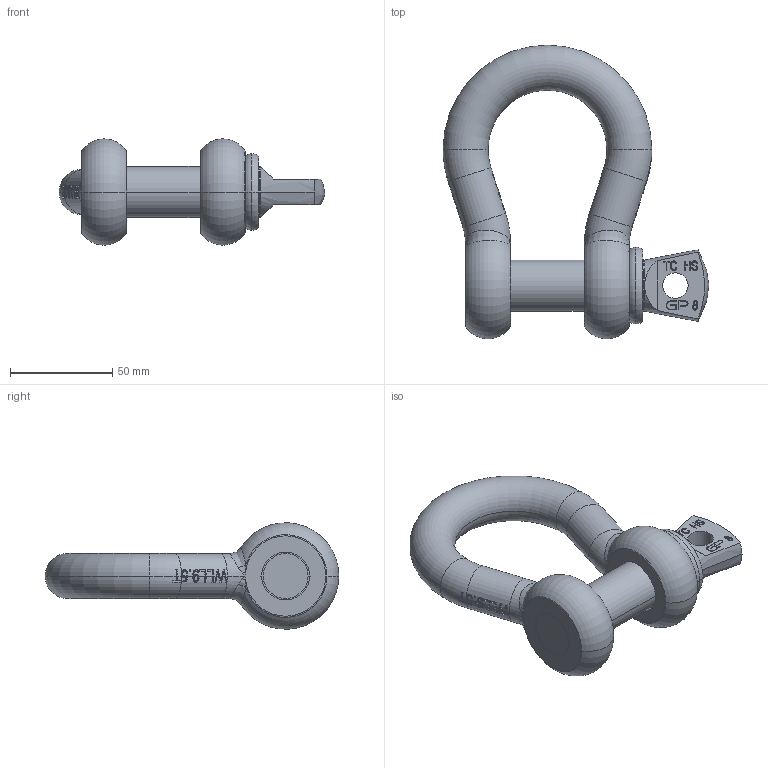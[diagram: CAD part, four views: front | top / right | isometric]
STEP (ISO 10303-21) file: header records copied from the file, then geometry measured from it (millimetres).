
FILE_DESCRIPTION(('STEP AP203'),'1');
FILE_NAME('sughbb22.stp','2022-09-26T10:05:15',('TraceParts'),('TraceParts S.A.'),'Spatial InterOp 3D',' ',' ');
FILE_SCHEMA(('CONFIG_CONTROL_DESIGN'));
Length unit declared in the file: millimetre
Products named in the file (1): 1
Bounding box: 129.89 x 143.5 x 51.95 mm (x, y, z)
Volume: 197896.5 mm3; surface area: 40640.5 mm2
Topology: 2 solids, 2 shells, 417 faces, 1136 edges, 726 vertices
Faces by surface type: plane 175, bspline 133, cylinder 69, torus 30, cone 10
Entity records: 20595 total; most frequent: CARTESIAN_POINT 11076, ORIENTED_EDGE 2240, DIRECTION 1559, EDGE_CURVE 1120, VERTEX_POINT 726, LINE 533, VECTOR 533, AXIS2_PLACEMENT_3D 513
